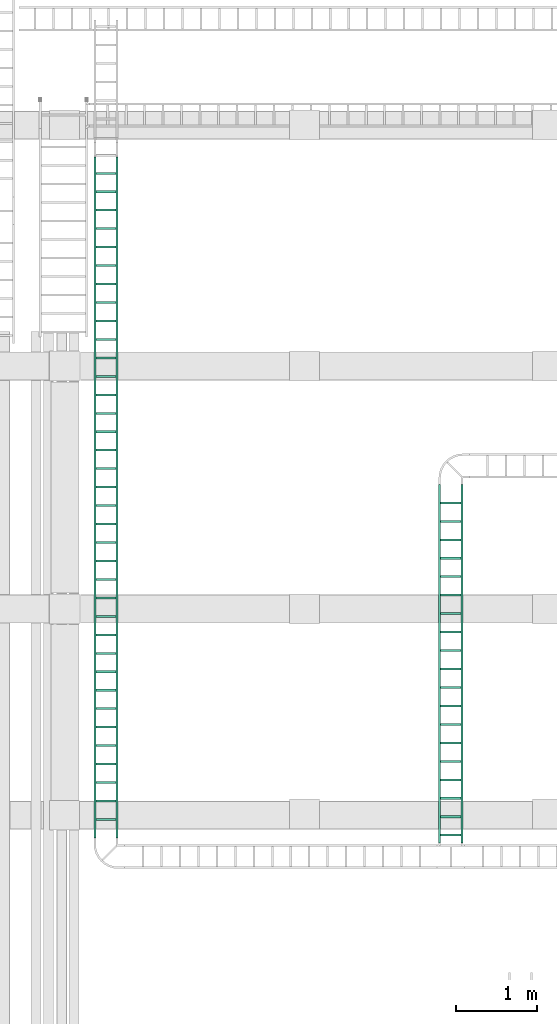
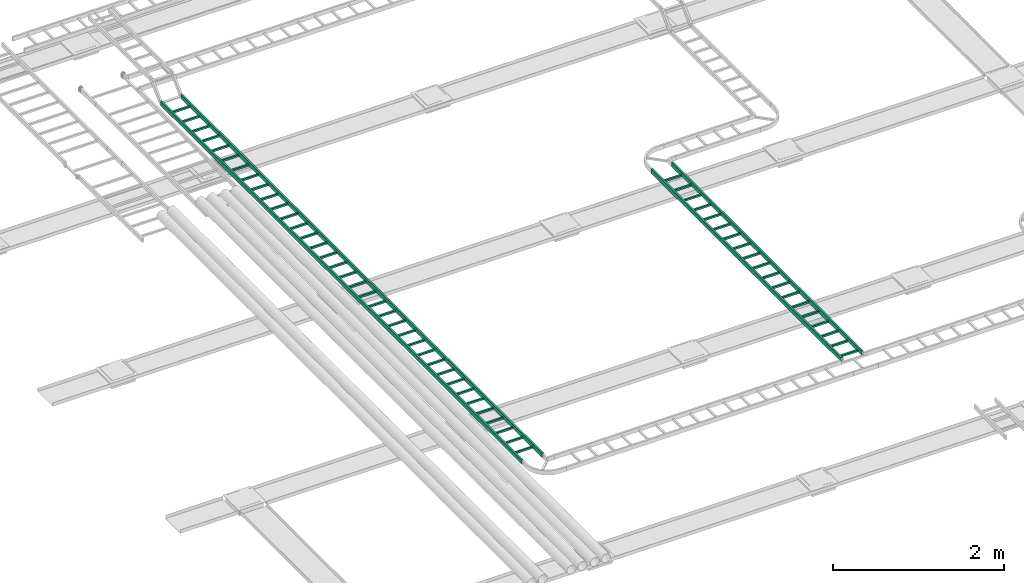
# One storey, part 6 of 16: 2 flow segments.
"""IFC2X3 building model written with IfcOpenShell, lengths in millimetres."""

import ifcopenshell
import ifcopenshell.guid

model = None  # the IFC model being written
_history = None  # IfcOwnerHistory: only IFC2X3 demands one
_inside = {}  # id of a spatial element -> (the spatial element, [elements in it])
_under = {}  # id of a project, library or spatial element -> (it, [spatial elements below it])
_declared = {}  # id of a project -> (the project, [libraries it declares])
_typed = {}  # id of a type object -> (the type object, [elements of that type])
_made_of = {}  # id of a material, layer set ... -> (it, [elements and type objects made of it])


def new_model(schema):
    """Start an empty IFC model of exactly this schema.

    Asked for "IFC4X3", IfcOpenShell would pick the latest addendum, in which some entities
    have other attributes; the version numbers below select the first issue.
    IFC2X3 requires an IfcOwnerHistory on every rooted entity: one is made here for all.
    """
    global model, _history
    if schema == "IFC4X3":
        model = ifcopenshell.file(schema_version=(4, 3, 0, 0))
    else:
        model = ifcopenshell.file(schema=schema)
    _inside.clear()
    _under.clear()
    _declared.clear()
    _typed.clear()
    _made_of.clear()
    _history = None
    if model.schema == "IFC2X3":
        org = make("IfcOrganization", Name="unknown")
        user = make(
            "IfcPersonAndOrganization",
            ThePerson=make("IfcPerson", FamilyName="unknown"),
            TheOrganization=org,
        )
        app = make(
            "IfcApplication",
            ApplicationDeveloper=org,
            Version="unknown",
            ApplicationFullName="unknown",
            ApplicationIdentifier="unknown",
        )
        _history = make(
            "IfcOwnerHistory",
            OwningUser=user,
            OwningApplication=app,
            ChangeAction="ADDED",
            CreationDate=0,
        )
    return model


def make(cls, **values):
    """One entity of the class cls with the attributes given. An attribute that is None is left unset."""
    return model.create_entity(
        cls, **{name: value for name, value in values.items() if value is not None}
    )


def entity(cls, *values):
    """Any entity or typed value of the class cls, its attributes in the order of the schema. None: left unset."""
    e = model.create_entity(cls)
    for i, value in enumerate(values):
        if value is not None:
            e[i] = value
    return e


def rooted(cls, **values):
    """An entity with a GlobalId (a new one), such as an element, a storey or a relation."""
    return make(cls, GlobalId=ifcopenshell.guid.new(), OwnerHistory=_history, **values)


def si_unit(unit_type, name, prefix=None):
    """IfcSIUnit, for example si_unit("LENGTHUNIT", "METRE", prefix="MILLI")."""
    return make("IfcSIUnit", UnitType=unit_type, Prefix=prefix, Name=name)


def converted_unit(unit_type, name, factor, base, dimensions=None, offset=None):
    """IfcConversionBasedUnit, such as the inch: factor (a typed value) times the base unit."""
    return make(
        "IfcConversionBasedUnit"
        if offset is None
        else "IfcConversionBasedUnitWithOffset",
        ConversionOffset=offset,
        Dimensions=None
        if dimensions is None
        else entity("IfcDimensionalExponents", *dimensions),
        UnitType=unit_type,
        Name=name,
        ConversionFactor=make(
            "IfcMeasureWithUnit", ValueComponent=factor, UnitComponent=base
        ),
    )


def derived_unit(unit_type, elements):
    """IfcDerivedUnit: a product of units, each with its exponent."""
    return make(
        "IfcDerivedUnit",
        Elements=[
            make("IfcDerivedUnitElement", Unit=unit, Exponent=power)
            for unit, power in elements
        ],
        UnitType=unit_type,
    )


def assignment(units):
    """IfcUnitAssignment: the units of a project."""
    return None if units is None else make("IfcUnitAssignment", Units=units)


def point(xyz):
    """IfcCartesianPoint."""
    return None if xyz is None else make("IfcCartesianPoint", Coordinates=xyz)


def direction(xyz):
    """IfcDirection."""
    return None if xyz is None else make("IfcDirection", DirectionRatios=xyz)


def frame(location, z_axis=None, x_axis=None):
    """IfcAxis2Placement3D, a coordinate frame: its origin and axes. An axis left out is left unset."""
    return make(
        "IfcAxis2Placement3D",
        Location=point(location),
        Axis=direction(z_axis),
        RefDirection=direction(x_axis),
    )


def origin_with_axes():
    """The frame at (0, 0, 0) with the z axis (0, 0, 1) and the x axis (1, 0, 0) written out."""
    return frame((0.0, 0.0, 0.0), z_axis=(0.0, 0.0, 1.0), x_axis=(1.0, 0.0, 0.0))


def place(relative_to, where):
    """IfcLocalPlacement: puts the frame where relative to a parent placement (None: the world)."""
    return make(
        "IfcLocalPlacement", PlacementRelTo=relative_to, RelativePlacement=where
    )


def context(
    kind, dimensions, precision=None, world=None, true_north=None, identifier=None
):
    """IfcGeometricRepresentationContext, for example the 3D "Model" context."""
    return make(
        "IfcGeometricRepresentationContext",
        ContextIdentifier=identifier,
        ContextType=kind,
        CoordinateSpaceDimension=dimensions,
        Precision=precision,
        WorldCoordinateSystem=world,
        TrueNorth=true_north,
    )


def subcontext(parent, identifier, kind, view, scale=None):
    """IfcGeometricRepresentationSubContext, for example "Body" below "Model"."""
    return make(
        "IfcGeometricRepresentationSubContext",
        ContextIdentifier=identifier,
        ContextType=kind,
        ParentContext=parent,
        TargetScale=scale,
        TargetView=view,
    )


def project(units=None, contexts=None):
    """IfcProject with its units and contexts."""
    return rooted(
        "IfcProject",
        Name="project",
        RepresentationContexts=contexts,
        UnitsInContext=assignment(units),
    )


def spatial(cls, under=None, at=None, **own):
    """A site, building, storey or space (cls), placed at a placement, below another one or the project."""
    s = rooted(cls, ObjectPlacement=at, **own)
    if under is not None:
        _under.setdefault(under.id(), (under, []))[1].append(s)
    return s


def faces_of(points, faces, orient=None, outer=None):
    """IfcFace entities. A face is a list of loops; a loop is a list of indices into points, from 0.

    orient and outer hold one flag for each loop. By default every Orientation is true, the
    first loop of a face is its IfcFaceOuterBound and the others are IfcFaceBound.
    """
    made = []
    for i, loops in enumerate(faces):
        bounds = []
        for j, loop in enumerate(loops):
            is_outer = j == 0 if outer is None else outer[i][j]
            bounds.append(
                make(
                    "IfcFaceOuterBound" if is_outer else "IfcFaceBound",
                    Bound=make("IfcPolyLoop", Polygon=[points[k] for k in loop]),
                    Orientation=True if orient is None else orient[i][j],
                )
            )
        made.append(make("IfcFace", Bounds=bounds))
    return made


def open_shell(faces, orient=None, outer=None):
    """The faces of one IfcOpenShell. surface_model builds it on its shared points."""
    return ("IfcOpenShell", faces, orient, outer)


def surface_model(cls, points, shells):
    """IfcFaceBasedSurfaceModel or IfcShellBasedSurfaceModel (cls): surfaces that need not close."""
    shared = [point(p) for p in points]
    made = [make(c, CfsFaces=faces_of(shared, fs, o, b)) for c, fs, o, b in shells]
    if cls == "IfcFaceBasedSurfaceModel":
        return make(cls, FbsmFaces=made)
    return make(cls, SbsmBoundary=made)


def shape(context_of_items, identifier, shape_type, items):
    """IfcShapeRepresentation: the items that make up one representation, for example the "Body"."""
    return make(
        "IfcShapeRepresentation",
        ContextOfItems=context_of_items,
        RepresentationIdentifier=identifier,
        RepresentationType=shape_type,
        Items=items,
    )


def source(mapping_origin, context_of_items, identifier, shape_type, items):
    """IfcRepresentationMap: a shape defined once, which mapped items show again and again."""
    return make(
        "IfcRepresentationMap",
        MappingOrigin=mapping_origin,
        MappedRepresentation=shape(context_of_items, identifier, shape_type, items),
    )


def transform(
    local_origin,
    x_axis=None,
    y_axis=None,
    z_axis=None,
    scale=None,
    scale2=None,
    scale3=None,
    uniform=True,
):
    """IfcCartesianTransformationOperator3D, or its non-uniform kind. x_axis, y_axis, z_axis: its Axis1, 2, 3."""
    if uniform:
        return make(
            "IfcCartesianTransformationOperator3D",
            Axis1=direction(x_axis),
            Axis2=direction(y_axis),
            LocalOrigin=point(local_origin),
            Scale=scale,
            Axis3=direction(z_axis),
        )
    return make(
        "IfcCartesianTransformationOperator3DnonUniform",
        Axis1=direction(x_axis),
        Axis2=direction(y_axis),
        LocalOrigin=point(local_origin),
        Scale=scale,
        Axis3=direction(z_axis),
        Scale2=scale2,
        Scale3=scale3,
    )


def mapped(mapping_source, mapping_target):
    """IfcMappedItem: shows the shape of a source again, moved by a transform."""
    return make(
        "IfcMappedItem", MappingSource=mapping_source, MappingTarget=mapping_target
    )


def made_of(thing, what):
    """Note that an element or type object is made of a material, layer set ...; save() writes the relation."""
    if what is not None:
        _made_of.setdefault(what.id(), (what, []))[1].append(thing)
    return thing


def type_object(cls, material=None, **own):
    """A type object (cls), such as IfcWallType, which elements share."""
    return made_of(rooted(cls, **own), material)


def element(
    cls,
    number,
    at=None,
    inside=None,
    cuts=None,
    type_object=None,
    material=None,
    context=None,
    identifier="Body",
    shape_type=None,
    held_by="IfcProductDefinitionShape",
    body=None,
    shapes=None,
    **own,
):
    """One element of the class cls, such as IfcWall. Its Tag is "e" and its number.

    at: its placement. inside: the storey or other place that contains it. cuts: it is an
    opening in that element (IfcRelVoidsElement). A single representation is given by context,
    identifier, shape_type and body (its items); several are given by shapes. held_by: the class
    of the entity that holds the representations. save() writes the other relations.
    """
    e = rooted(cls, Tag="e%d" % number, ObjectPlacement=at, **own)
    if body is not None:
        shapes = [shape(context, identifier, shape_type, body)]
    if shapes is not None:
        e.Representation = make(held_by, Representations=shapes)
    if inside is not None:
        _inside.setdefault(inside.id(), (inside, []))[1].append(e)
    if cuts is not None:
        rooted(
            "IfcRelVoidsElement", RelatingBuildingElement=cuts, RelatedOpeningElement=e
        )
    if type_object is not None:
        _typed.setdefault(type_object.id(), (type_object, []))[1].append(e)
    return made_of(e, material)


def aggregate(whole, parts):
    """IfcRelAggregates: a whole, such as a stair, and the parts it consists of."""
    return rooted("IfcRelAggregates", RelatingObject=whole, RelatedObjects=parts)


def save(model, path):
    """Write the relations noted so far, then the file.

    IfcRelAggregates (storeys below a building ...), IfcRelContainedInSpatialStructure (elements
    in a storey), IfcRelDefinesByType, IfcRelAssociatesMaterial and IfcRelDeclares: one each for
    every whole, place, type object, material and project.
    """
    for whole, parts in _under.values():
        aggregate(whole, parts)
    for where, things in _inside.values():
        rooted(
            "IfcRelContainedInSpatialStructure",
            RelatedElements=things,
            RelatingStructure=where,
        )
    for kind, things in _typed.values():
        rooted("IfcRelDefinesByType", RelatedObjects=things, RelatingType=kind)
    for what, things in _made_of.values():
        rooted("IfcRelAssociatesMaterial", RelatedObjects=things, RelatingMaterial=what)
    for by, libraries in _declared.values():
        rooted("IfcRelDeclares", RelatingContext=by, RelatedDefinitions=libraries)
    model.write(path)


model = new_model("IFC2X3")

# Units and contexts
model_context = context("Model", 3, precision=0.01, world=frame((0.0, 4.29681676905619e-09, 0.0)), true_north=direction((4.01073788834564e-13, 1.0)))
plan_context = context("Plan", 3, precision=0.01, world=frame((0.0, 4.29681676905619e-09, 0.0)), true_north=direction((4.01073788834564e-13, 1.0)))
body_context = subcontext(model_context, "Body", "Model", "MODEL_VIEW")
ifc_project = project(units=[converted_unit("PLANEANGLEUNIT", "DEGREE", entity("IfcPositiveLengthMeasure", 0.0174532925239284), si_unit("PLANEANGLEUNIT", "RADIAN"), dimensions=[0, 0, 0, 0, 0, 0, 0]), si_unit("AREAUNIT", "SQUARE_METRE"), si_unit("LENGTHUNIT", "METRE", prefix="MILLI"), si_unit("MASSUNIT", "GRAM", prefix="KILO"), si_unit("POWERUNIT", "WATT"), si_unit("PRESSUREUNIT", "PASCAL"), si_unit("FORCEUNIT", "NEWTON", prefix="KILO"), si_unit("ELECTRICVOLTAGEUNIT", "VOLT"), si_unit("ELECTRICCURRENTUNIT", "AMPERE"), si_unit("THERMODYNAMICTEMPERATUREUNIT", "DEGREE_CELSIUS"), si_unit("TIMEUNIT", "SECOND"), si_unit("VOLUMEUNIT", "CUBIC_METRE"), derived_unit("LINEARVELOCITYUNIT", [(si_unit("LENGTHUNIT", "METRE"), 1), (si_unit("TIMEUNIT", "SECOND"), -1)]), derived_unit("VOLUMETRICFLOWRATEUNIT", [(si_unit("VOLUMEUNIT", "CUBIC_METRE"), 1), (si_unit("TIMEUNIT", "SECOND"), -1)]), derived_unit("THERMALTRANSMITTANCEUNIT", [(si_unit("POWERUNIT", "WATT"), 1), (si_unit("THERMODYNAMICTEMPERATUREUNIT", "KELVIN"), -1), (si_unit("AREAUNIT", "SQUARE_METRE"), -1)]), derived_unit("SOUNDPRESSUREUNIT", [(si_unit("PRESSUREUNIT", "PASCAL"), 1)])], contexts=[model_context, plan_context])

# Site, building, storey
site_placement = place(None, frame((0.0, -4.29681676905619e-09, 0.0), z_axis=(0.0, 0.0, 1.0), x_axis=(1.0, 0.0, 0.0)))
site = spatial("IfcSite", under=ifc_project, at=site_placement, Name="ENGM", CompositionType="ELEMENT")
building_placement = place(site_placement, frame((0.0, 4.29681676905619e-09, 0.0), z_axis=(0.0, 0.0, 1.0), x_axis=(1.0, 0.0, 0.0)))
building = spatial("IfcBuilding", under=site, at=building_placement, Name="TS", CompositionType="ELEMENT")
storey_placement = place(building_placement, frame((0.0, 0.0, 210900.0), z_axis=(0.0, 0.0, 1.0), x_axis=(1.0, 0.0, 0.0)))
storey = spatial("IfcBuildingStorey", under=building, at=storey_placement, Name="Nivå F", CompositionType="ELEMENT", Elevation=210900.0)

# Flow segments
cable_carrier_segment_type = type_object("IfcCableCarrierSegmentType", Name="Kabelbro", PredefinedType="CABLELADDERSEGMENT")
shared_shape_1 = source(origin_with_axes(), body_context, "Body", "SurfaceModel", [
    surface_model("IfcShellBasedSurfaceModel", [(241.30001, -124.6, -4.6), (241.30001, -124.6, -30.0), (241.30001, 124.6, -30.0), (241.30001, 124.6, -4.6), (215.89999, -124.6, -4.6), (215.89999, 124.6, -4.6), (215.89999, -124.6, -30.0), (215.89999, 124.6, -30.0), (469.89999, -124.6, -4.6), (469.89999, -124.6, -30.0), (469.89999, 124.6, -30.0), (469.89999, 124.6, -4.6), (444.50001, -124.6, -4.6), (444.50001, 124.6, -4.6), (444.50001, -124.6, -30.0), (444.50001, 124.6, -30.0), (698.50002, -124.6, -4.6), (698.50002, -124.6, -30.0), (698.50002, 124.6, -30.0), (698.50002, 124.6, -4.6), (673.09998, -124.6, -4.6), (673.09998, 124.6, -4.6), (673.09998, -124.6, -30.0), (673.09998, 124.6, -30.0), (927.10002, -124.6, -4.6), (927.10002, -124.6, -30.0), (927.10002, 124.6, -30.0), (927.10002, 124.6, -4.6), (901.69998, -124.6, -4.6), (901.69998, 124.6, -4.6), (901.69998, -124.6, -30.0), (901.69998, 124.6, -30.0), (1155.70002, -124.6, -4.6), (1155.70002, -124.6, -30.0), (1155.70002, 124.6, -30.0), (1155.70002, 124.6, -4.6), (1130.29998, -124.6, -4.6), (1130.29998, 124.6, -4.6), (1130.29998, -124.6, -30.0), (1130.29998, 124.6, -30.0), (1384.29995, -124.6, -4.6), (1384.29995, -124.6, -30.0), (1384.29995, 124.6, -30.0), (1384.29995, 124.6, -4.6), (1358.90005, -124.6, -4.6), (1358.90005, 124.6, -4.6), (1358.90005, -124.6, -30.0), (1358.90005, 124.6, -30.0), (1612.89995, -124.6, -4.6), (1612.89995, -124.6, -30.0), (1612.89995, 124.6, -30.0), (1612.89995, 124.6, -4.6), (1587.50005, -124.6, -4.6), (1587.50005, 124.6, -4.6), (1587.50005, -124.6, -30.0), (1587.50005, 124.6, -30.0), (1841.49995, -124.6, -4.6), (1841.49995, -124.6, -30.0), (1841.49995, 124.6, -30.0), (1841.49995, 124.6, -4.6), (1816.10005, -124.6, -4.6), (1816.10005, 124.6, -4.6), (1816.10005, -124.6, -30.0), (1816.10005, 124.6, -30.0), (2070.09995, -124.6, -4.6), (2070.09995, -124.6, -30.0), (2070.09995, 124.6, -30.0), (2070.09995, 124.6, -4.6), (2044.70005, -124.6, -4.6), (2044.70005, 124.6, -4.6), (2044.70005, -124.6, -30.0), (2044.70005, 124.6, -30.0), (2298.69995, -124.6, -4.6), (2298.69995, -124.6, -30.0), (2298.69995, 124.6, -30.0), (2298.69995, 124.6, -4.6), (2273.30005, -124.6, -4.6), (2273.30005, 124.6, -4.6), (2273.30005, -124.6, -30.0), (2273.30005, 124.6, -30.0), (2527.3001, -124.6, -4.6), (2527.3001, -124.6, -30.0), (2527.3001, 124.6, -30.0), (2527.3001, 124.6, -4.6), (2501.8999, -124.6, -4.6), (2501.8999, 124.6, -4.6), (2501.8999, -124.6, -30.0), (2501.8999, 124.6, -30.0), (2755.9001, -124.6, -4.6), (2755.9001, -124.6, -30.0), (2755.9001, 124.6, -30.0), (2755.9001, 124.6, -4.6), (2730.4999, -124.6, -4.6), (2730.4999, 124.6, -4.6), (2730.4999, -124.6, -30.0), (2730.4999, 124.6, -30.0), (2984.5001, -124.6, -4.6), (2984.5001, -124.6, -30.0), (2984.5001, 124.6, -30.0), (2984.5001, 124.6, -4.6), (2959.0999, -124.6, -4.6), (2959.0999, 124.6, -4.6), (2959.0999, -124.6, -30.0), (2959.0999, 124.6, -30.0), (3213.1001, -124.6, -4.6), (3213.1001, -124.6, -30.0), (3213.1001, 124.6, -30.0), (3213.1001, 124.6, -4.6), (3187.6999, -124.6, -4.6), (3187.6999, 124.6, -4.6), (3187.6999, -124.6, -30.0), (3187.6999, 124.6, -30.0), (3441.7001, -124.6, -4.6), (3441.7001, -124.6, -30.0), (3441.7001, 124.6, -30.0), (3441.7001, 124.6, -4.6), (3416.2999, -124.6, -4.6), (3416.2999, 124.6, -4.6), (3416.2999, -124.6, -30.0), (3416.2999, 124.6, -30.0), (3670.3001, -124.6, -4.6), (3670.3001, -124.6, -30.0), (3670.3001, 124.6, -30.0), (3670.3001, 124.6, -4.6), (3644.8999, -124.6, -4.6), (3644.8999, 124.6, -4.6), (3644.8999, -124.6, -30.0), (3644.8999, 124.6, -30.0), (3898.9001, -124.6, -4.6), (3898.9001, -124.6, -30.0), (3898.9001, 124.6, -30.0), (3898.9001, 124.6, -4.6), (3873.4999, -124.6, -4.6), (3873.4999, 124.6, -4.6), (3873.4999, -124.6, -30.0), (3873.4999, 124.6, -30.0), (4127.5001, -124.6, -4.6), (4127.5001, -124.6, -30.0), (4127.5001, 124.6, -30.0), (4127.5001, 124.6, -4.6), (4102.0999, -124.6, -4.6), (4102.0999, 124.6, -4.6), (4102.0999, -124.6, -30.0), (4102.0999, 124.6, -30.0), (4356.1001, -124.6, -4.6), (4356.1001, -124.6, -30.0), (4356.1001, 124.6, -30.0), (4356.1001, 124.6, -4.6), (4330.6999, -124.6, -4.6), (4330.6999, 124.6, -4.6), (4330.6999, -124.6, -30.0), (4330.6999, 124.6, -30.0), (4584.7001, -124.6, -4.6), (4584.7001, -124.6, -30.0), (4584.7001, 124.6, -30.0), (4584.7001, 124.6, -4.6), (4559.2999, -124.6, -4.6), (4559.2999, 124.6, -4.6), (4559.2999, -124.6, -30.0), (4559.2999, 124.6, -30.0), (4813.3001, -124.6, -4.6), (4813.3001, -124.6, -30.0), (4813.3001, 124.6, -30.0), (4813.3001, 124.6, -4.6), (4787.8999, -124.6, -4.6), (4787.8999, 124.6, -4.6), (4787.8999, -124.6, -30.0), (4787.8999, 124.6, -30.0), (5041.89981, -124.6, -4.6), (5041.89981, -124.6, -30.0), (5041.89981, 124.6, -30.0), (5041.89981, 124.6, -4.6), (5016.50019, -124.6, -4.6), (5016.50019, 124.6, -4.6), (5016.50019, -124.6, -30.0), (5016.50019, 124.6, -30.0), (5270.49981, -124.6, -4.6), (5270.49981, -124.6, -30.0), (5270.49981, 124.6, -30.0), (5270.49981, 124.6, -4.6), (5245.10019, -124.6, -4.6), (5245.10019, 124.6, -4.6), (5245.10019, -124.6, -30.0), (5245.10019, 124.6, -30.0), (0.0, -124.6, 30.0), (0.0, -124.6, -30.0), (0.0, -150.0, -30.0), (0.0, -150.0, 30.0), (0.0, 150.0, 30.0), (0.0, 150.0, -30.0), (0.0, 124.6, -30.0), (0.0, 124.6, 30.0), (5473.70019, -124.6, -30.0), (5499.09981, -124.6, -30.0), (5499.09981, -124.6, -4.6), (5473.70019, -124.6, -4.6), (5499.09981, 124.6, -4.6), (5499.09981, 124.6, -30.0), (5473.70019, 124.6, -30.0), (5473.70019, 124.6, -4.6), (5702.30019, -124.6, -30.0), (5727.69981, -124.6, -30.0), (5727.69981, -124.6, -4.6), (5702.30019, -124.6, -4.6), (5727.69981, 124.6, -4.6), (5727.69981, 124.6, -30.0), (5702.30019, 124.6, -30.0), (5702.30019, 124.6, -4.6), (5930.90019, -124.6, -30.0), (5956.29981, -124.6, -30.0), (5956.29981, -124.6, -4.6), (5930.90019, -124.6, -4.6), (5956.29981, 124.6, -4.6), (5956.29981, 124.6, -30.0), (5930.90019, 124.6, -30.0), (5930.90019, 124.6, -4.6), (6159.50019, -124.6, -30.0), (6184.89981, -124.6, -30.0), (6184.89981, -124.6, -4.6), (6159.50019, -124.6, -4.6), (6184.89981, 124.6, -4.6), (6184.89981, 124.6, -30.0), (6159.50019, 124.6, -30.0), (6159.50019, 124.6, -4.6), (6388.10019, -124.6, -30.0), (6413.49981, -124.6, -30.0), (6413.49981, -124.6, -4.6), (6388.10019, -124.6, -4.6), (6413.49981, 124.6, -4.6), (6413.49981, 124.6, -30.0), (6388.10019, 124.6, -30.0), (6388.10019, 124.6, -4.6), (6616.70019, -124.6, -30.0), (6642.09981, -124.6, -30.0), (6642.09981, -124.6, -4.6), (6616.70019, -124.6, -4.6), (6642.09981, 124.6, -4.6), (6642.09981, 124.6, -30.0), (6616.70019, 124.6, -30.0), (6616.70019, 124.6, -4.6), (6845.30019, -124.6, -30.0), (6870.69981, -124.6, -30.0), (6870.69981, -124.6, -4.6), (6845.30019, -124.6, -4.6), (6870.69981, 124.6, -4.6), (6870.69981, 124.6, -30.0), (6845.30019, 124.6, -30.0), (6845.30019, 124.6, -4.6), (7073.90019, -124.6, -30.0), (7099.29981, -124.6, -30.0), (7099.29981, -124.6, -4.6), (7073.90019, -124.6, -4.6), (7099.29981, 124.6, -4.6), (7099.29981, 124.6, -30.0), (7073.90019, 124.6, -30.0), (7073.90019, 124.6, -4.6), (7302.50019, -124.6, -30.0), (7327.89981, -124.6, -30.0), (7327.89981, -124.6, -4.6), (7302.50019, -124.6, -4.6), (7327.89981, 124.6, -4.6), (7327.89981, 124.6, -30.0), (7302.50019, 124.6, -30.0), (7302.50019, 124.6, -4.6), (7556.49981, -124.6, -4.6), (7556.49981, -124.6, -30.0), (7556.49981, 124.6, -30.0), (7556.49981, 124.6, -4.6), (7531.10019, -124.6, -4.6), (7531.10019, 124.6, -4.6), (7531.10019, -124.6, -30.0), (7531.10019, 124.6, -30.0), (7785.09981, -124.6, -4.6), (7785.09981, -124.6, -30.0), (7785.09981, 124.6, -30.0), (7785.09981, 124.6, -4.6), (7759.70019, -124.6, -4.6), (7759.70019, 124.6, -4.6), (7759.70019, -124.6, -30.0), (7759.70019, 124.6, -30.0), (8013.69981, -124.6, -4.6), (8013.69981, -124.6, -30.0), (8013.69981, 124.6, -30.0), (8013.69981, 124.6, -4.6), (7988.30019, -124.6, -4.6), (7988.30019, 124.6, -4.6), (7988.30019, -124.6, -30.0), (7988.30019, 124.6, -30.0), (8242.29981, -124.6, -4.6), (8242.29981, -124.6, -30.0), (8242.29981, 124.6, -30.0), (8242.29981, 124.6, -4.6), (8216.90019, -124.6, -4.6), (8216.90019, 124.6, -4.6), (8216.90019, -124.6, -30.0), (8216.90019, 124.6, -30.0), (8429.43141, -150.0, -30.0), (8429.43141, -124.6, -30.0), (8429.43141, -124.6, 30.0), (8429.43141, -150.0, 30.0), (8429.43141, 124.6, -30.0), (8429.43141, 150.0, -30.0), (8429.43141, 150.0, 30.0), (8429.43141, 124.6, 30.0)], [open_shell([[[0, 1, 2]], [[2, 3, 0]], [[4, 0, 5]], [[3, 5, 0]], [[6, 4, 5]], [[5, 7, 6]], [[1, 6, 2]], [[7, 2, 6]], [[8, 9, 10]], [[10, 11, 8]], [[12, 8, 13]], [[11, 13, 8]], [[14, 12, 13]], [[13, 15, 14]], [[9, 14, 10]], [[15, 10, 14]], [[16, 17, 18]], [[18, 19, 16]], [[20, 16, 21]], [[19, 21, 16]], [[22, 20, 21]], [[21, 23, 22]], [[17, 22, 18]], [[23, 18, 22]], [[24, 25, 26]], [[26, 27, 24]], [[28, 24, 29]], [[27, 29, 24]], [[30, 28, 29]], [[29, 31, 30]], [[25, 30, 26]], [[31, 26, 30]], [[32, 33, 34]], [[34, 35, 32]], [[36, 32, 37]], [[35, 37, 32]], [[38, 36, 37]], [[37, 39, 38]], [[33, 38, 34]], [[39, 34, 38]], [[40, 41, 42]], [[42, 43, 40]], [[44, 40, 45]], [[43, 45, 40]], [[46, 44, 45]], [[45, 47, 46]], [[41, 46, 42]], [[47, 42, 46]], [[48, 49, 50]], [[50, 51, 48]], [[52, 48, 53]], [[51, 53, 48]], [[54, 52, 53]], [[53, 55, 54]], [[49, 54, 50]], [[55, 50, 54]], [[56, 57, 58]], [[58, 59, 56]], [[60, 56, 61]], [[59, 61, 56]], [[62, 60, 61]], [[61, 63, 62]], [[57, 62, 58]], [[63, 58, 62]], [[64, 65, 66]], [[66, 67, 64]], [[68, 64, 69]], [[67, 69, 64]], [[70, 68, 69]], [[69, 71, 70]], [[65, 70, 66]], [[71, 66, 70]], [[72, 73, 74]], [[74, 75, 72]], [[76, 72, 77]], [[75, 77, 72]], [[78, 76, 77]], [[77, 79, 78]], [[73, 78, 74]], [[79, 74, 78]], [[80, 81, 82]], [[82, 83, 80]], [[84, 80, 85]], [[83, 85, 80]], [[86, 84, 85]], [[85, 87, 86]], [[81, 86, 82]], [[87, 82, 86]], [[88, 89, 90]], [[90, 91, 88]], [[92, 88, 93]], [[91, 93, 88]], [[94, 92, 93]], [[93, 95, 94]], [[89, 94, 90]], [[95, 90, 94]], [[96, 97, 98]], [[98, 99, 96]], [[100, 96, 101]], [[99, 101, 96]], [[102, 100, 101]], [[101, 103, 102]], [[97, 102, 98]], [[103, 98, 102]], [[104, 105, 106]], [[106, 107, 104]], [[108, 104, 109]], [[107, 109, 104]], [[110, 108, 109]], [[109, 111, 110]], [[105, 110, 106]], [[111, 106, 110]], [[112, 113, 114]], [[114, 115, 112]], [[116, 112, 117]], [[115, 117, 112]], [[118, 116, 117]], [[117, 119, 118]], [[113, 118, 114]], [[119, 114, 118]], [[120, 121, 122]], [[122, 123, 120]], [[124, 120, 125]], [[123, 125, 120]], [[126, 124, 125]], [[125, 127, 126]], [[121, 126, 122]], [[127, 122, 126]], [[128, 129, 130]], [[130, 131, 128]], [[132, 128, 133]], [[131, 133, 128]], [[134, 132, 133]], [[133, 135, 134]], [[129, 134, 130]], [[135, 130, 134]], [[136, 137, 138]], [[138, 139, 136]], [[140, 136, 141]], [[139, 141, 136]], [[142, 140, 141]], [[141, 143, 142]], [[137, 142, 138]], [[143, 138, 142]], [[144, 145, 146]], [[146, 147, 144]], [[148, 144, 149]], [[147, 149, 144]], [[150, 148, 149]], [[149, 151, 150]], [[145, 150, 146]], [[151, 146, 150]], [[152, 153, 154]], [[154, 155, 152]], [[156, 152, 157]], [[155, 157, 152]], [[158, 156, 157]], [[157, 159, 158]], [[153, 158, 154]], [[159, 154, 158]], [[160, 161, 162]], [[162, 163, 160]], [[164, 160, 165]], [[163, 165, 160]], [[166, 164, 165]], [[165, 167, 166]], [[161, 166, 162]], [[167, 162, 166]], [[168, 169, 170]], [[170, 171, 168]], [[172, 168, 173]], [[171, 173, 168]], [[174, 172, 173]], [[173, 175, 174]], [[169, 174, 170]], [[175, 170, 174]], [[176, 177, 178]], [[178, 179, 176]], [[180, 176, 181]], [[179, 181, 176]], [[182, 180, 181]], [[181, 183, 182]], [[177, 182, 178]], [[183, 178, 182]], [[184, 185, 186]], [[186, 187, 184]], [[188, 189, 190]], [[190, 191, 188]], [[6, 1, 0]], [[0, 4, 6]], [[3, 2, 7]], [[7, 5, 3]], [[14, 9, 8]], [[8, 12, 14]], [[11, 10, 15]], [[15, 13, 11]], [[22, 17, 16]], [[16, 20, 22]], [[19, 18, 23]], [[23, 21, 19]], [[30, 25, 24]], [[24, 28, 30]], [[27, 26, 31]], [[31, 29, 27]], [[38, 33, 32]], [[32, 36, 38]], [[35, 34, 39]], [[39, 37, 35]], [[46, 41, 40]], [[40, 44, 46]], [[43, 42, 47]], [[47, 45, 43]], [[54, 49, 48]], [[48, 52, 54]], [[51, 50, 55]], [[55, 53, 51]], [[62, 57, 56]], [[56, 60, 62]], [[59, 58, 63]], [[63, 61, 59]], [[70, 65, 64]], [[64, 68, 70]], [[67, 66, 71]], [[71, 69, 67]], [[78, 73, 72]], [[72, 76, 78]], [[75, 74, 79]], [[79, 77, 75]], [[86, 81, 80]], [[80, 84, 86]], [[83, 82, 87]], [[87, 85, 83]], [[94, 89, 88]], [[88, 92, 94]], [[91, 90, 95]], [[95, 93, 91]], [[102, 97, 96]], [[96, 100, 102]], [[99, 98, 103]], [[103, 101, 99]], [[110, 105, 104]], [[104, 108, 110]], [[107, 106, 111]], [[111, 109, 107]], [[118, 113, 112]], [[112, 116, 118]], [[115, 114, 119]], [[119, 117, 115]], [[126, 121, 120]], [[120, 124, 126]], [[123, 122, 127]], [[127, 125, 123]], [[134, 129, 128]], [[128, 132, 134]], [[131, 130, 135]], [[135, 133, 131]], [[142, 137, 136]], [[136, 140, 142]], [[139, 138, 143]], [[143, 141, 139]], [[150, 145, 144]], [[144, 148, 150]], [[147, 146, 151]], [[151, 149, 147]], [[158, 153, 152]], [[152, 156, 158]], [[155, 154, 159]], [[159, 157, 155]], [[166, 161, 160]], [[160, 164, 166]], [[163, 162, 167]], [[167, 165, 163]], [[174, 169, 168]], [[168, 172, 174]], [[171, 170, 175]], [[175, 173, 171]], [[182, 177, 176]], [[176, 180, 182]], [[179, 178, 183]], [[183, 181, 179]], [[192, 193, 194]], [[194, 195, 192]], [[196, 197, 198]], [[198, 199, 196]], [[194, 193, 197]], [[197, 196, 194]], [[195, 194, 199]], [[196, 199, 194]], [[192, 195, 199]], [[199, 198, 192]], [[193, 192, 197]], [[198, 197, 192]], [[200, 201, 202]], [[202, 203, 200]], [[204, 205, 206]], [[206, 207, 204]], [[202, 201, 205]], [[205, 204, 202]], [[203, 202, 207]], [[204, 207, 202]], [[200, 203, 207]], [[207, 206, 200]], [[201, 200, 205]], [[206, 205, 200]], [[208, 209, 210]], [[210, 211, 208]], [[212, 213, 214]], [[214, 215, 212]], [[210, 209, 213]], [[213, 212, 210]], [[211, 210, 215]], [[212, 215, 210]], [[208, 211, 215]], [[215, 214, 208]], [[209, 208, 213]], [[214, 213, 208]], [[216, 217, 218]], [[218, 219, 216]], [[220, 221, 222]], [[222, 223, 220]], [[218, 217, 221]], [[221, 220, 218]], [[219, 218, 223]], [[220, 223, 218]], [[216, 219, 223]], [[223, 222, 216]], [[217, 216, 221]], [[222, 221, 216]], [[224, 225, 226]], [[226, 227, 224]], [[228, 229, 230]], [[230, 231, 228]], [[226, 225, 229]], [[229, 228, 226]], [[227, 226, 231]], [[228, 231, 226]], [[224, 227, 231]], [[231, 230, 224]], [[225, 224, 229]], [[230, 229, 224]], [[232, 233, 234]], [[234, 235, 232]], [[236, 237, 238]], [[238, 239, 236]], [[234, 233, 237]], [[237, 236, 234]], [[235, 234, 239]], [[236, 239, 234]], [[232, 235, 239]], [[239, 238, 232]], [[233, 232, 237]], [[238, 237, 232]], [[240, 241, 242]], [[242, 243, 240]], [[244, 245, 246]], [[246, 247, 244]], [[242, 241, 245]], [[245, 244, 242]], [[243, 242, 247]], [[244, 247, 242]], [[240, 243, 247]], [[247, 246, 240]], [[241, 240, 245]], [[246, 245, 240]], [[248, 249, 250]], [[250, 251, 248]], [[252, 253, 254]], [[254, 255, 252]], [[250, 249, 253]], [[253, 252, 250]], [[251, 250, 255]], [[252, 255, 250]], [[248, 251, 255]], [[255, 254, 248]], [[249, 248, 253]], [[254, 253, 248]], [[256, 257, 258]], [[258, 259, 256]], [[260, 261, 262]], [[262, 263, 260]], [[258, 257, 261]], [[261, 260, 258]], [[259, 258, 263]], [[260, 263, 258]], [[256, 259, 263]], [[263, 262, 256]], [[257, 256, 261]], [[262, 261, 256]], [[264, 265, 266]], [[266, 267, 264]], [[268, 264, 269]], [[267, 269, 264]], [[270, 268, 269]], [[269, 271, 270]], [[265, 270, 266]], [[271, 266, 270]], [[272, 273, 274]], [[274, 275, 272]], [[276, 272, 277]], [[275, 277, 272]], [[278, 276, 277]], [[277, 279, 278]], [[273, 278, 274]], [[279, 274, 278]], [[280, 281, 282]], [[282, 283, 280]], [[284, 280, 285]], [[283, 285, 280]], [[286, 284, 285]], [[285, 287, 286]], [[281, 286, 282]], [[287, 282, 286]], [[288, 289, 290]], [[290, 291, 288]], [[292, 288, 293]], [[291, 293, 288]], [[294, 292, 293]], [[293, 295, 294]], [[289, 294, 290]], [[295, 290, 294]], [[270, 265, 264]], [[264, 268, 270]], [[267, 266, 271]], [[271, 269, 267]], [[278, 273, 272]], [[272, 276, 278]], [[275, 274, 279]], [[279, 277, 275]], [[286, 281, 280]], [[280, 284, 286]], [[283, 282, 287]], [[287, 285, 283]], [[294, 289, 288]], [[288, 292, 294]], [[291, 290, 295]], [[295, 293, 291]], [[296, 297, 298]], [[298, 299, 296]], [[300, 301, 302]], [[302, 303, 300]], [[187, 186, 296]], [[296, 299, 187]], [[184, 187, 299]], [[299, 298, 184]], [[185, 184, 298]], [[298, 297, 185]], [[186, 185, 297]], [[297, 296, 186]], [[189, 188, 302]], [[302, 301, 189]], [[190, 189, 301]], [[301, 300, 190]], [[191, 190, 300]], [[300, 303, 191]], [[188, 191, 303]], [[303, 302, 188]]])]),
])
flow_segment_1_placement = place(storey_placement, frame((522022.55901, 443172.94453, 3925.0), z_axis=(0.0, 0.0, 1.0), x_axis=(0.0, 1.0, 0.0)))
element("IfcFlowSegment", 1, at=flow_segment_1_placement, inside=storey, type_object=cable_carrier_segment_type, Name="Kabelbro", context=body_context, shape_type="MappedRepresentation", body=[
    mapped(shared_shape_1, transform((0.0, 0.0, 0.0), scale=1.0)),
])
shared_shape_2 = source(origin_with_axes(), body_context, "Body", "SurfaceModel", [
    surface_model("IfcShellBasedSurfaceModel", [(241.30001, -124.6, -4.6), (241.30001, -124.6, -30.0), (241.30001, 124.6, -30.0), (241.30001, 124.6, -4.6), (215.89999, -124.6, -4.6), (215.89999, 124.6, -4.6), (215.89999, -124.6, -30.0), (215.89999, 124.6, -30.0), (469.89999, -124.6, -4.6), (469.89999, -124.6, -30.0), (469.89999, 124.6, -30.0), (469.89999, 124.6, -4.6), (444.50001, -124.6, -4.6), (444.50001, 124.6, -4.6), (444.50001, -124.6, -30.0), (444.50001, 124.6, -30.0), (698.50002, -124.6, -4.6), (698.50002, -124.6, -30.0), (698.50002, 124.6, -30.0), (698.50002, 124.6, -4.6), (673.09998, -124.6, -4.6), (673.09998, 124.6, -4.6), (673.09998, -124.6, -30.0), (673.09998, 124.6, -30.0), (927.10002, -124.6, -4.6), (927.10002, -124.6, -30.0), (927.10002, 124.6, -30.0), (927.10002, 124.6, -4.6), (901.69998, -124.6, -4.6), (901.69998, 124.6, -4.6), (901.69998, -124.6, -30.0), (901.69998, 124.6, -30.0), (1155.70002, -124.6, -4.6), (1155.70002, -124.6, -30.0), (1155.70002, 124.6, -30.0), (1155.70002, 124.6, -4.6), (1130.29998, -124.6, -4.6), (1130.29998, 124.6, -4.6), (1130.29998, -124.6, -30.0), (1130.29998, 124.6, -30.0), (1384.29995, -124.6, -4.6), (1384.29995, -124.6, -30.0), (1384.29995, 124.6, -30.0), (1384.29995, 124.6, -4.6), (1358.90005, -124.6, -4.6), (1358.90005, 124.6, -4.6), (1358.90005, -124.6, -30.0), (1358.90005, 124.6, -30.0), (1612.89995, -124.6, -4.6), (1612.89995, -124.6, -30.0), (1612.89995, 124.6, -30.0), (1612.89995, 124.6, -4.6), (1587.50005, -124.6, -4.6), (1587.50005, 124.6, -4.6), (1587.50005, -124.6, -30.0), (1587.50005, 124.6, -30.0), (1841.49995, -124.6, -4.6), (1841.49995, -124.6, -30.0), (1841.49995, 124.6, -30.0), (1841.49995, 124.6, -4.6), (1816.10005, -124.6, -4.6), (1816.10005, 124.6, -4.6), (1816.10005, -124.6, -30.0), (1816.10005, 124.6, -30.0), (2070.09995, -124.6, -4.6), (2070.09995, -124.6, -30.0), (2070.09995, 124.6, -30.0), (2070.09995, 124.6, -4.6), (2044.70005, -124.6, -4.6), (2044.70005, 124.6, -4.6), (2044.70005, -124.6, -30.0), (2044.70005, 124.6, -30.0), (2298.69995, -124.6, -4.6), (2298.69995, -124.6, -30.0), (2298.69995, 124.6, -30.0), (2298.69995, 124.6, -4.6), (2273.30005, -124.6, -4.6), (2273.30005, 124.6, -4.6), (2273.30005, -124.6, -30.0), (2273.30005, 124.6, -30.0), (2527.3001, -124.6, -4.6), (2527.3001, -124.6, -30.0), (2527.3001, 124.6, -30.0), (2527.3001, 124.6, -4.6), (2501.8999, -124.6, -4.6), (2501.8999, 124.6, -4.6), (2501.8999, -124.6, -30.0), (2501.8999, 124.6, -30.0), (2755.9001, -124.6, -4.6), (2755.9001, -124.6, -30.0), (2755.9001, 124.6, -30.0), (2755.9001, 124.6, -4.6), (2730.4999, -124.6, -4.6), (2730.4999, 124.6, -4.6), (2730.4999, -124.6, -30.0), (2730.4999, 124.6, -30.0), (2984.5001, -124.6, -4.6), (2984.5001, -124.6, -30.0), (2984.5001, 124.6, -30.0), (2984.5001, 124.6, -4.6), (2959.0999, -124.6, -4.6), (2959.0999, 124.6, -4.6), (2959.0999, -124.6, -30.0), (2959.0999, 124.6, -30.0), (3213.1001, -124.6, -4.6), (3213.1001, -124.6, -30.0), (3213.1001, 124.6, -30.0), (3213.1001, 124.6, -4.6), (3187.6999, -124.6, -4.6), (3187.6999, 124.6, -4.6), (3187.6999, -124.6, -30.0), (3187.6999, 124.6, -30.0), (3441.7001, -124.6, -4.6), (3441.7001, -124.6, -30.0), (3441.7001, 124.6, -30.0), (3441.7001, 124.6, -4.6), (3416.2999, -124.6, -4.6), (3416.2999, 124.6, -4.6), (3416.2999, -124.6, -30.0), (3416.2999, 124.6, -30.0), (3670.3001, -124.6, -4.6), (3670.3001, -124.6, -30.0), (3670.3001, 124.6, -30.0), (3670.3001, 124.6, -4.6), (3644.8999, -124.6, -4.6), (3644.8999, 124.6, -4.6), (3644.8999, -124.6, -30.0), (3644.8999, 124.6, -30.0), (3898.9001, -124.6, -4.6), (3898.9001, -124.6, -30.0), (3898.9001, 124.6, -30.0), (3898.9001, 124.6, -4.6), (3873.4999, -124.6, -4.6), (3873.4999, 124.6, -4.6), (3873.4999, -124.6, -30.0), (3873.4999, 124.6, -30.0), (4127.5001, -124.6, -4.6), (4127.5001, -124.6, -30.0), (4127.5001, 124.6, -30.0), (4127.5001, 124.6, -4.6), (4102.0999, -124.6, -4.6), (4102.0999, 124.6, -4.6), (4102.0999, -124.6, -30.0), (4102.0999, 124.6, -30.0), (4356.1001, -124.6, -4.6), (4356.1001, -124.6, -30.0), (4356.1001, 124.6, -30.0), (4356.1001, 124.6, -4.6), (4330.6999, -124.6, -4.6), (4330.6999, 124.6, -4.6), (4330.6999, -124.6, -30.0), (4330.6999, 124.6, -30.0), (0.0, -124.6, 30.0), (0.0, -124.6, -30.0), (0.0, -150.0, -30.0), (0.0, -150.0, 30.0), (0.0, 150.0, 30.0), (0.0, 150.0, -30.0), (0.0, 124.6, -30.0), (0.0, 124.6, 30.0), (4438.35118, -124.6, 30.0), (4438.35118, -150.0, 30.0), (4438.35118, -150.0, -30.0), (4438.35118, -124.6, -30.0), (4438.35118, 150.0, 30.0), (4438.35118, 124.6, 30.0), (4438.35118, 124.6, -30.0), (4438.35118, 150.0, -30.0)], [open_shell([[[0, 1, 2]], [[2, 3, 0]], [[4, 0, 5]], [[3, 5, 0]], [[6, 4, 5]], [[5, 7, 6]], [[1, 6, 2]], [[7, 2, 6]], [[8, 9, 10]], [[10, 11, 8]], [[12, 8, 13]], [[11, 13, 8]], [[14, 12, 13]], [[13, 15, 14]], [[9, 14, 10]], [[15, 10, 14]], [[16, 17, 18]], [[18, 19, 16]], [[20, 16, 21]], [[19, 21, 16]], [[22, 20, 21]], [[21, 23, 22]], [[17, 22, 18]], [[23, 18, 22]], [[24, 25, 26]], [[26, 27, 24]], [[28, 24, 29]], [[27, 29, 24]], [[30, 28, 29]], [[29, 31, 30]], [[25, 30, 26]], [[31, 26, 30]], [[32, 33, 34]], [[34, 35, 32]], [[36, 32, 37]], [[35, 37, 32]], [[38, 36, 37]], [[37, 39, 38]], [[33, 38, 34]], [[39, 34, 38]], [[40, 41, 42]], [[42, 43, 40]], [[44, 40, 45]], [[43, 45, 40]], [[46, 44, 45]], [[45, 47, 46]], [[41, 46, 42]], [[47, 42, 46]], [[48, 49, 50]], [[50, 51, 48]], [[52, 48, 53]], [[51, 53, 48]], [[54, 52, 53]], [[53, 55, 54]], [[49, 54, 50]], [[55, 50, 54]], [[56, 57, 58]], [[58, 59, 56]], [[60, 56, 61]], [[59, 61, 56]], [[62, 60, 61]], [[61, 63, 62]], [[57, 62, 58]], [[63, 58, 62]], [[64, 65, 66]], [[66, 67, 64]], [[68, 64, 69]], [[67, 69, 64]], [[70, 68, 69]], [[69, 71, 70]], [[65, 70, 66]], [[71, 66, 70]], [[72, 73, 74]], [[74, 75, 72]], [[76, 72, 77]], [[75, 77, 72]], [[78, 76, 77]], [[77, 79, 78]], [[73, 78, 74]], [[79, 74, 78]], [[80, 81, 82]], [[82, 83, 80]], [[84, 80, 85]], [[83, 85, 80]], [[86, 84, 85]], [[85, 87, 86]], [[81, 86, 82]], [[87, 82, 86]], [[88, 89, 90]], [[90, 91, 88]], [[92, 88, 93]], [[91, 93, 88]], [[94, 92, 93]], [[93, 95, 94]], [[89, 94, 90]], [[95, 90, 94]], [[96, 97, 98]], [[98, 99, 96]], [[100, 96, 101]], [[99, 101, 96]], [[102, 100, 101]], [[101, 103, 102]], [[97, 102, 98]], [[103, 98, 102]], [[104, 105, 106]], [[106, 107, 104]], [[108, 104, 109]], [[107, 109, 104]], [[110, 108, 109]], [[109, 111, 110]], [[105, 110, 106]], [[111, 106, 110]], [[112, 113, 114]], [[114, 115, 112]], [[116, 112, 117]], [[115, 117, 112]], [[118, 116, 117]], [[117, 119, 118]], [[113, 118, 114]], [[119, 114, 118]], [[120, 121, 122]], [[122, 123, 120]], [[124, 120, 125]], [[123, 125, 120]], [[126, 124, 125]], [[125, 127, 126]], [[121, 126, 122]], [[127, 122, 126]], [[128, 129, 130]], [[130, 131, 128]], [[132, 128, 133]], [[131, 133, 128]], [[134, 132, 133]], [[133, 135, 134]], [[129, 134, 130]], [[135, 130, 134]], [[136, 137, 138]], [[138, 139, 136]], [[140, 136, 141]], [[139, 141, 136]], [[142, 140, 141]], [[141, 143, 142]], [[137, 142, 138]], [[143, 138, 142]], [[144, 145, 146]], [[146, 147, 144]], [[148, 144, 149]], [[147, 149, 144]], [[150, 148, 149]], [[149, 151, 150]], [[145, 150, 146]], [[151, 146, 150]], [[152, 153, 154]], [[154, 155, 152]], [[156, 157, 158]], [[158, 159, 156]], [[6, 1, 0]], [[0, 4, 6]], [[3, 2, 7]], [[7, 5, 3]], [[14, 9, 8]], [[8, 12, 14]], [[11, 10, 15]], [[15, 13, 11]], [[22, 17, 16]], [[16, 20, 22]], [[19, 18, 23]], [[23, 21, 19]], [[30, 25, 24]], [[24, 28, 30]], [[27, 26, 31]], [[31, 29, 27]], [[38, 33, 32]], [[32, 36, 38]], [[35, 34, 39]], [[39, 37, 35]], [[46, 41, 40]], [[40, 44, 46]], [[43, 42, 47]], [[47, 45, 43]], [[54, 49, 48]], [[48, 52, 54]], [[51, 50, 55]], [[55, 53, 51]], [[62, 57, 56]], [[56, 60, 62]], [[59, 58, 63]], [[63, 61, 59]], [[70, 65, 64]], [[64, 68, 70]], [[67, 66, 71]], [[71, 69, 67]], [[78, 73, 72]], [[72, 76, 78]], [[75, 74, 79]], [[79, 77, 75]], [[86, 81, 80]], [[80, 84, 86]], [[83, 82, 87]], [[87, 85, 83]], [[94, 89, 88]], [[88, 92, 94]], [[91, 90, 95]], [[95, 93, 91]], [[102, 97, 96]], [[96, 100, 102]], [[99, 98, 103]], [[103, 101, 99]], [[110, 105, 104]], [[104, 108, 110]], [[107, 106, 111]], [[111, 109, 107]], [[118, 113, 112]], [[112, 116, 118]], [[115, 114, 119]], [[119, 117, 115]], [[126, 121, 120]], [[120, 124, 126]], [[123, 122, 127]], [[127, 125, 123]], [[134, 129, 128]], [[128, 132, 134]], [[131, 130, 135]], [[135, 133, 131]], [[142, 137, 136]], [[136, 140, 142]], [[139, 138, 143]], [[143, 141, 139]], [[150, 145, 144]], [[144, 148, 150]], [[147, 146, 151]], [[151, 149, 147]], [[160, 161, 162]], [[162, 163, 160]], [[164, 165, 166]], [[166, 167, 164]], [[155, 154, 161]], [[162, 161, 154]], [[152, 155, 160]], [[161, 160, 155]], [[153, 152, 163]], [[160, 163, 152]], [[154, 153, 162]], [[163, 162, 153]], [[157, 156, 167]], [[164, 167, 156]], [[158, 157, 166]], [[167, 166, 157]], [[159, 158, 165]], [[166, 165, 158]], [[156, 159, 164]], [[165, 164, 159]]])]),
])
flow_segment_2_placement = place(storey_placement, frame((526292.55901, 447550.29565, 3925.0), z_axis=(0.0, 0.0, 1.0), x_axis=(0.0, -1.0, 0.0)))
element("IfcFlowSegment", 2, at=flow_segment_2_placement, inside=storey, type_object=cable_carrier_segment_type, Name="Kabelbro", context=body_context, shape_type="MappedRepresentation", body=[
    mapped(shared_shape_2, transform((0.0, 0.0, 0.0), scale=1.0)),
])

save(model, "model.ifc")
